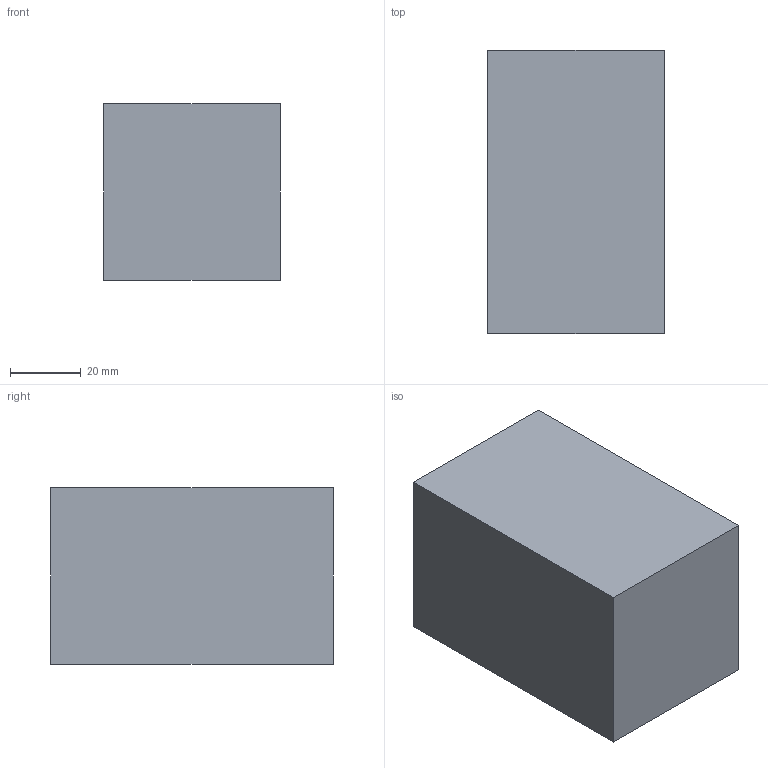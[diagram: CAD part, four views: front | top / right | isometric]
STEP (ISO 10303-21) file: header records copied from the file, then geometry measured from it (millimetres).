
FILE_DESCRIPTION (( 'STEP AP214' ), '1' );
FILE_NAME ('2_13_1061.STEP', '2025-03-28T10:47:39', ( '' ), ( '' ), 'SwSTEP 2.0', 'SolidWorks 2022', '' );
FILE_SCHEMA (( 'AUTOMOTIVE_DESIGN' ));
Length unit declared in the file: millimetre
Products named in the file (1): 2_13_1061
Bounding box: 50 x 80 x 50 mm (x, y, z)
Volume: 170901.2 mm3; surface area: 25574.5 mm2
Topology: 1 solids, 1 shells, 34 faces, 70 edges, 40 vertices
Faces by surface type: cone 12, cylinder 12, plane 8, torus 2
Entity records: 1010 total; most frequent: DIRECTION 174, CARTESIAN_POINT 145, ORIENTED_EDGE 140, EDGE_CURVE 70, AXIS2_PLACEMENT_3D 69, VERTEX_POINT 40, LINE 36, EDGE_LOOP 36
